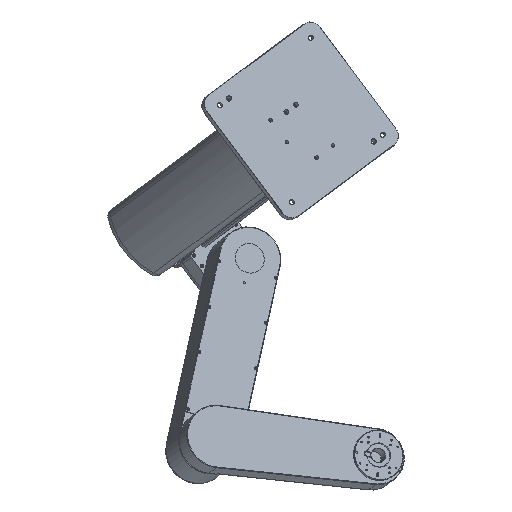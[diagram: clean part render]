
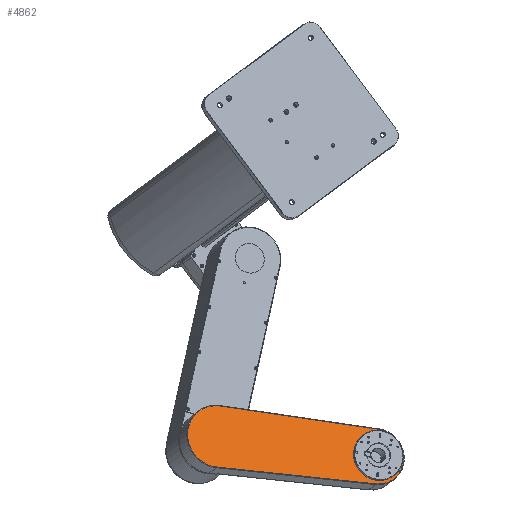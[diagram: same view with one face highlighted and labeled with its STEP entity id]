
A CAD part, top view. The second image highlights one B-rep face of the part: STEP entity #4862.
In plain terms, the highlighted planar face has unit normal (0.281, 0.209, 0.937) as drawn and (0, 0, 1) by its records, which use the part's own axes.
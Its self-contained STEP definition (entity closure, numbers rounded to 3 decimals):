
#3701=CARTESIAN_POINT('Vertex',(240.779,673.226,572.156)) ;
#3704=CARTESIAN_POINT('Axis2P3D Location',(265.966,648.923,572.156)) ;
#3708=CARTESIAN_POINT('Vertex',(291.153,624.62,572.156)) ;
#3723=CARTESIAN_POINT('Axis2P3D Location',(265.966,648.923,572.156)) ;
#4819=CARTESIAN_POINT('Axis2P3D Location',(-177.006,168.928,572.156)) ;
#4824=CARTESIAN_POINT('Axis2P3D Location',(265.966,648.923,572.156)) ;
#4828=CARTESIAN_POINT('Vertex',(300.067,617.311,572.156)) ;
#4830=CARTESIAN_POINT('Vertex',(233.156,681.874,572.156)) ;
#4833=CARTESIAN_POINT('Line Origine',(135.74,584.875,572.156)) ;
#4837=CARTESIAN_POINT('Vertex',(38.324,487.876,572.156)) ;
#4840=CARTESIAN_POINT('Axis2P3D Location',(75.015,451.028,572.156)) ;
#4844=CARTESIAN_POINT('Vertex',(113.15,415.676,572.156)) ;
#4847=CARTESIAN_POINT('Line Origine',(206.608,516.493,572.156)) ;
#3705=DIRECTION('Axis2P3D Direction',(-0.,0.,1.)) ;
#3724=DIRECTION('Axis2P3D Direction',(-0.,0.,1.)) ;
#4820=DIRECTION('Axis2P3D Direction',(-0.,0.,1.)) ;
#4821=DIRECTION('Axis2P3D XDirection',(0.72,-0.694,0.)) ;
#4825=DIRECTION('Axis2P3D Direction',(-0.,0.,1.)) ;
#4834=DIRECTION('Vector Direction',(-0.709,-0.706,0.)) ;
#4841=DIRECTION('Axis2P3D Direction',(-0.,0.,1.)) ;
#4848=DIRECTION('Vector Direction',(0.68,0.733,0.)) ;
#3706=AXIS2_PLACEMENT_3D('Circle Axis2P3D',#3704,#3705,$) ;
#3725=AXIS2_PLACEMENT_3D('Circle Axis2P3D',#3723,#3724,$) ;
#4822=AXIS2_PLACEMENT_3D('Plane Axis2P3D',#4819,#4820,#4821) ;
#4826=AXIS2_PLACEMENT_3D('Circle Axis2P3D',#4824,#4825,$) ;
#4842=AXIS2_PLACEMENT_3D('Circle Axis2P3D',#4840,#4841,$) ;
#4853=ORIENTED_EDGE('',*,*,#4832,.T.) ;
#4854=ORIENTED_EDGE('',*,*,#4839,.T.) ;
#4855=ORIENTED_EDGE('',*,*,#4846,.T.) ;
#4856=ORIENTED_EDGE('',*,*,#4851,.T.) ;
#4859=ORIENTED_EDGE('',*,*,#3727,.F.) ;
#4860=ORIENTED_EDGE('',*,*,#3710,.F.) ;
#4861=FACE_BOUND('',#4858,.T.) ;
#4835=VECTOR('Line Direction',#4834,1.) ;
#4849=VECTOR('Line Direction',#4848,1.) ;
#4862=ADVANCED_FACE('\X2\7B2C4E8C81C24F53\X0\\\\X2\96F64EF651E04F554F53\X0\',(#4857,#4861),#4823,.T.) ;
#3707=CIRCLE('generated circle',#3706,35.) ;
#3726=CIRCLE('generated circle',#3725,35.) ;
#4827=CIRCLE('generated circle',#4826,46.5) ;
#4843=CIRCLE('generated circle',#4842,52.) ;
#3710=EDGE_CURVE('',#3702,#3709,#3707,.T.) ;
#3727=EDGE_CURVE('',#3709,#3702,#3726,.T.) ;
#4832=EDGE_CURVE('',#4829,#4831,#4827,.T.) ;
#4839=EDGE_CURVE('',#4831,#4838,#4836,.T.) ;
#4846=EDGE_CURVE('',#4838,#4845,#4843,.T.) ;
#4851=EDGE_CURVE('',#4845,#4829,#4850,.T.) ;
#4852=EDGE_LOOP('',(#4853,#4854,#4855,#4856)) ;
#4858=EDGE_LOOP('',(#4859,#4860)) ;
#4857=FACE_OUTER_BOUND('',#4852,.T.) ;
#4836=LINE('Line',#4833,#4835) ;
#4850=LINE('Line',#4847,#4849) ;
#4823=PLANE('Plane',#4822) ;
#3702=VERTEX_POINT('',#3701) ;
#3709=VERTEX_POINT('',#3708) ;
#4829=VERTEX_POINT('',#4828) ;
#4831=VERTEX_POINT('',#4830) ;
#4838=VERTEX_POINT('',#4837) ;
#4845=VERTEX_POINT('',#4844) ;
